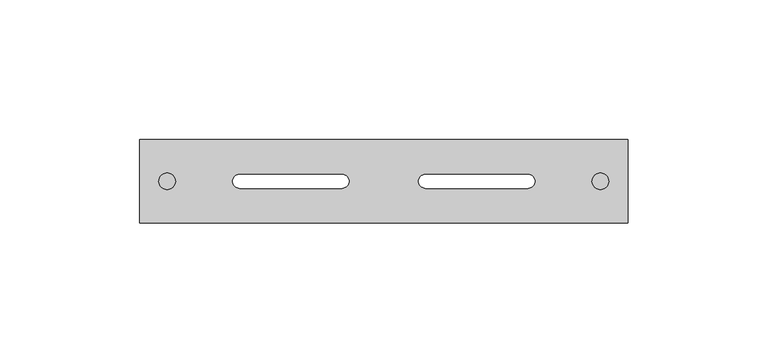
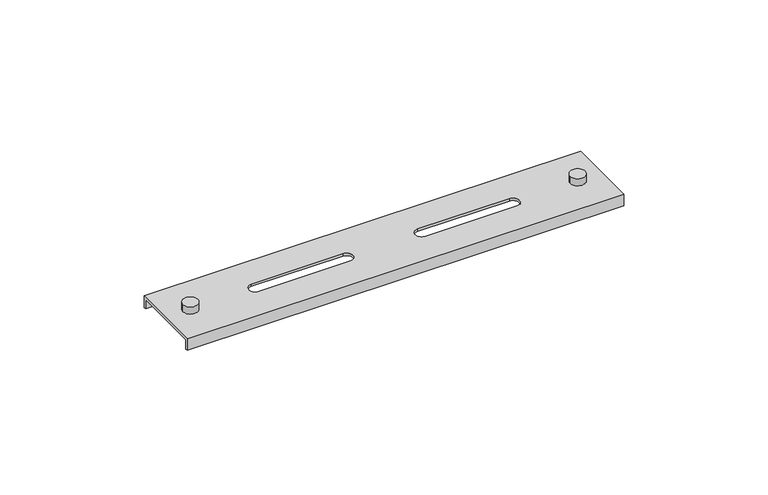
"""IFC4 building model written with IfcOpenShell, lengths in millimetres: cable carrier fitting geometry, CCT_Hyperline_FBTR_BAR_Подвес_для_оптического_лотка : Подвес для оптического лотка."""

from ifc_helpers import new_model, si_unit, point, frame, frame_2d, origin, place, context, project, spatial, polyline, circle_curve, trimmed, segment, composite_curve, outline, extrude, source, transform, mapped, element, save
from ifc_brep_helpers import plane_surface, revolved_surface, advanced_brep


def cable_carrier_fitting_33d41878(model_context):
    return source(origin(), model_context, "Body", "SolidModel", [
        extrude(outline(composite_curve([segment(trimmed(circle_curve(frame_2d((-77.6286976, 0.0)), 3.0), [point((-74.6286976, 0.0))], [point((-80.6286976, 0.0))], False, "CARTESIAN"), True, "CONTINUOUS"), segment(trimmed(circle_curve(frame_2d((-77.6286976, 0.0)), 3.0), [point((-80.6286976, 0.0))], [point((-74.6286976, 0.0))], False, "CARTESIAN"), True, "CONTINUOUS")], self_intersect=False)), frame((0.0, 0.0, 600.0), z_axis=(0.0, 0.0, 1.0), x_axis=(1.0, 0.0, 0.0)), (0.0, 0.0, 1.0), 3.0),
        extrude(outline(composite_curve([segment(trimmed(circle_curve(frame_2d((77.6286976, 0.0)), 3.0), [point((74.6286976, 0.0))], [point((80.6286976, 0.0))], False, "CARTESIAN"), True, "CONTINUOUS"), segment(trimmed(circle_curve(frame_2d((77.6286976, 0.0)), 3.0), [point((80.6286976, 0.0))], [point((74.6286976, 0.0))], False, "CARTESIAN"), True, "CONTINUOUS")], self_intersect=False)), frame((0.0, 0.0, 600.0), z_axis=(0.0, 0.0, 1.0), x_axis=(1.0, 0.0, 0.0)), (0.0, 0.0, 1.0), 3.0),
        advanced_brep(
        [(-87.5, -15.0, 600.0), (-87.5, 15.0, 600.0), (-87.5, 15.0, 595.0), (-87.5, 14.0, 595.0), (-87.5, 14.0, 599.0), (-87.5, -14.0, 599.0), (-87.5, -14.0, 595.0), (-87.5, -15.0, 595.0), (87.5, -15.0, 600.0), (87.5, 15.0, 600.0), (-51.6666667, 2.5, 600.0), (-15.0, 2.5, 600.0), (-15.0, -2.5, 600.0), (-51.6666667, -2.5, 600.0), (15.0, 2.5, 600.0), (51.6666667, 2.5, 600.0), (51.6666667, -2.5, 600.0), (15.0, -2.5, 600.0), (87.5, 14.0, 599.0), (87.5, -14.0, 599.0), (-15.0, 2.5, 599.0), (-51.6666667, 2.5, 599.0), (-51.6666667, -2.5, 599.0), (-15.0, -2.5, 599.0), (51.6666667, 2.5, 599.0), (15.0, 2.5, 599.0), (15.0, -2.5, 599.0), (51.6666667, -2.5, 599.0), (87.5, -14.0, 595.0), (87.5, -15.0, 595.0), (87.5, 14.0, 595.0), (87.5, 15.0, 595.0)],
        [
            (0, 1),
            (1, 2),
            (2, 3),
            (3, 4),
            (4, 5),
            (5, 6),
            (6, 7),
            (7, 0),
            (0, 8),
            (8, 9),
            (9, 1),
            (10, 11),
            (11, 12, circle_curve(frame((-15.0, 0.0, 600.0), z_axis=(0.0, 0.0, -1.0), x_axis=(1.0, 0.0, 0.0)), 2.5)),
            (12, 13),
            (13, 10, circle_curve(frame((-51.6666667, 0.0, 600.0), z_axis=(0.0, 0.0, -1.0), x_axis=(1.0, 0.0, 0.0)), 2.5)),
            (14, 15),
            (15, 16, circle_curve(frame((51.6666667, 0.0, 600.0), z_axis=(0.0, 0.0, -1.0), x_axis=(1.0, 0.0, 0.0)), 2.5)),
            (16, 17),
            (17, 14, circle_curve(frame((15.0, 0.0, 600.0), z_axis=(0.0, 0.0, -1.0), x_axis=(1.0, 0.0, 0.0)), 2.5)),
            (4, 18),
            (18, 19),
            (19, 5),
            (20, 21),
            (21, 22, circle_curve(frame((-51.6666667, 0.0, 599.0), z_axis=(0.0, 0.0, 1.0), x_axis=(1.0, 0.0, 0.0)), 2.5)),
            (22, 23),
            (23, 20, circle_curve(frame((-15.0, 0.0, 599.0), z_axis=(0.0, 0.0, 1.0), x_axis=(1.0, 0.0, 0.0)), 2.5)),
            (24, 25),
            (25, 26, circle_curve(frame((15.0, 0.0, 599.0), z_axis=(0.0, 0.0, 1.0), x_axis=(1.0, 0.0, 0.0)), 2.5)),
            (26, 27),
            (27, 24, circle_curve(frame((51.6666667, 0.0, 599.0), z_axis=(0.0, 0.0, 1.0), x_axis=(1.0, 0.0, 0.0)), 2.5)),
            (19, 28),
            (28, 6),
            (28, 29),
            (29, 7),
            (29, 8),
            (18, 30),
            (30, 31),
            (31, 9),
            (31, 2),
            (30, 3),
            (10, 21),
            (20, 11),
            (13, 22),
            (12, 23),
            (14, 25),
            (24, 15),
            (17, 26),
            (16, 27),
        ],
        [
            plane_surface(frame((-87.5, -60.0, 524.0), z_axis=(-1.0, 0.0, 0.0), x_axis=(0.0, 0.0, 1.0))),
            plane_surface(frame((-87.5, -15.0, 600.0), z_axis=(0.0, 0.0, 1.0), x_axis=(1.0, 0.0, 0.0))),
            plane_surface(frame((-87.5, 14.0, 599.0), z_axis=(0.0, 0.0, -1.0), x_axis=(1.0, 0.0, 0.0))),
            plane_surface(frame((-87.5, -14.0, 599.0), z_axis=(0.0, 1.0, 0.0), x_axis=(1.0, 0.0, 0.0))),
            plane_surface(frame((-87.5, -14.0, 595.0), z_axis=(0.0, 0.0, -1.0), x_axis=(1.0, 0.0, 0.0))),
            plane_surface(frame((-87.5, -15.0, 595.0), z_axis=(0.0, -1.0, 0.0), x_axis=(1.0, 0.0, 0.0))),
            plane_surface(frame((87.5, -60.0, 524.0), z_axis=(1.0, 0.0, 0.0), x_axis=(0.0, 0.0, 1.0))),
            plane_surface(frame((-87.5, 15.0, 600.0), z_axis=(0.0, 1.0, 0.0), x_axis=(1.0, 0.0, 0.0))),
            plane_surface(frame((-87.5, 15.0, 595.0), z_axis=(0.0, 0.0, -1.0), x_axis=(1.0, 0.0, 0.0))),
            plane_surface(frame((-87.5, 14.0, 595.0), z_axis=(0.0, -1.0, 0.0), x_axis=(1.0, 0.0, 0.0))),
            plane_surface(frame((-15.0, 2.5, 600.0), z_axis=(0.0, -1.0, 0.0), x_axis=(0.0, 0.0, -1.0))),
            revolved_surface(polyline([(-49.1666667, 0.0, 600.0), (-49.1666667, 0.0, 599.0)]), (-51.6666667, 0.0, 599.0), (0.0, 0.0, 1.0)),
            plane_surface(frame((-51.6666667, -2.5, 600.0), z_axis=(0.0, 1.0, 0.0), x_axis=(0.0, 0.0, -1.0))),
            revolved_surface(polyline([(-12.5, 0.0, 600.0), (-12.5, 0.0, 599.0)]), (-15.0, 0.0, 599.0), (0.0, 0.0, 1.0)),
            plane_surface(frame((51.6666667, 2.5, 600.0), z_axis=(0.0, -1.0, 0.0), x_axis=(0.0, 0.0, -1.0))),
            revolved_surface(polyline([(17.5, 0.0, 600.0), (17.5, 0.0, 599.0)]), (15.0, 0.0, 599.0), (0.0, 0.0, 1.0)),
            plane_surface(frame((15.0, -2.5, 600.0), z_axis=(0.0, 1.0, 0.0), x_axis=(0.0, 0.0, -1.0))),
            revolved_surface(polyline([(54.1666667, 0.0, 600.0), (54.1666667, 0.0, 599.0)]), (51.6666667, 0.0, 599.0), (0.0, 0.0, 1.0)),
        ],
        [
            (0, [[1, 2, 3, 4, 5, 6, 7, 8]]),
            (1, [[-1, 9, 10, 11], [12, 13, 14, 15], [16, 17, 18, 19]]),
            (2, [[-5, 20, 21, 22], [23, 24, 25, 26], [27, 28, 29, 30]]),
            (3, [[-6, -22, 31, 32]]),
            (4, [[-7, -32, 33, 34]]),
            (5, [[-8, -34, 35, -9]]),
            (6, [[-10, -35, -33, -31, -21, 36, 37, 38]]),
            (7, [[-2, -11, -38, 39]]),
            (8, [[-3, -39, -37, 40]]),
            (9, [[-4, -40, -36, -20]]),
            (10, [[41, -23, 42, -12]]),
            (11, [[-41, -15, 43, -24]]),
            (12, [[-43, -14, 44, -25]]),
            (13, [[-42, -26, -44, -13]]),
            (14, [[45, -27, 46, -16]]),
            (15, [[-45, -19, 47, -28]]),
            (16, [[-47, -18, 48, -29]]),
            (17, [[-46, -30, -48, -17]]),
        ],
    ),
    ])


if __name__ == "__main__":
    model = new_model("IFC4")
    model_context = context("Model", 3, world=origin())
    ifc_project = project(units=[si_unit("LENGTHUNIT", "METRE", prefix="MILLI")], contexts=[model_context])
    site = spatial("IfcSite", under=ifc_project)
    building = spatial("IfcBuilding", under=site)
    placement = place(None, origin())
    cable_carrier_fitting_shape = cable_carrier_fitting_33d41878(model_context)
    element("IfcCableCarrierFitting", 1, ObjectType="CCT_Hyperline_FBTR_BAR_Подвес_для_оптического_лотка : Подвес для оптического лотка", at=placement, inside=building, context=model_context, shape_type="MappedRepresentation", body=[
        mapped(cable_carrier_fitting_shape, transform((0.0, 0.0, 0.0), x_axis=(1.0, 0.0, 0.0), y_axis=(0.0, 1.0, 0.0), z_axis=(0.0, 0.0, 1.0))),
    ])
    save(model, "model.ifc")
